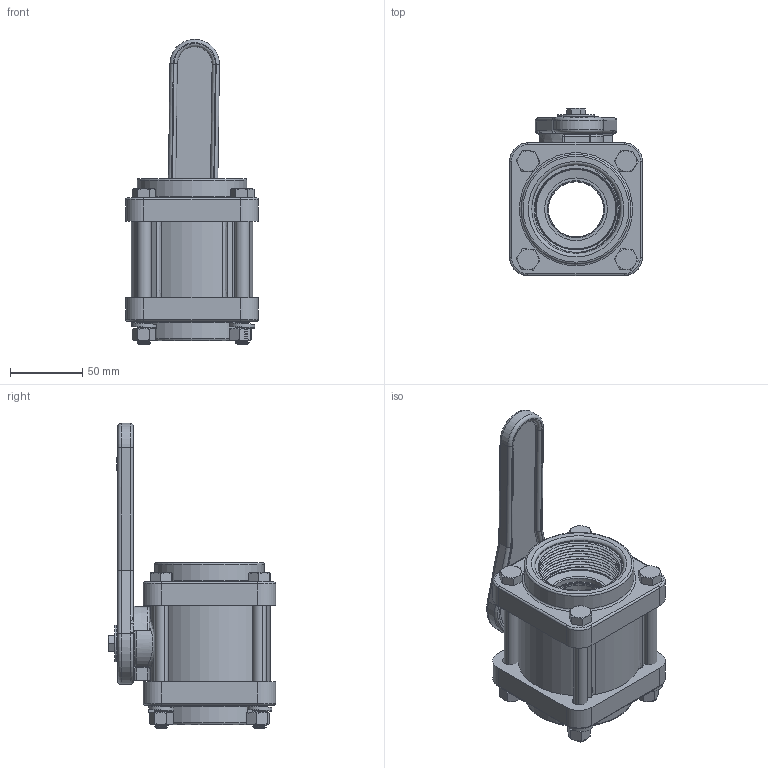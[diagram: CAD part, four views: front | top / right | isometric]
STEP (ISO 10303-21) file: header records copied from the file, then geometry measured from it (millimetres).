
FILE_DESCRIPTION(/* description */ ('Alibre Inc.'),/* implementation_level */ '2;1');
FILE_NAME(/* name */ 'export0',/* time_stamp */ '2023-03-28T15:02:59-04:00',/* author */ (''),/* organization */ (''),/* preprocessor_version */ 'ST-DEVELOPER v17',/* originating_system */ 'Alibre',/* authorisation */ '');
FILE_SCHEMA (('CONFIG_CONTROL_DESIGN'));
Length unit declared in the file: inch
Products named in the file (14): ID_1; ID_2; ID_3; ID_4; ID_5; ID_6; ID_7; ID_8; ID_9; ID_10; ID_11; ID_12
Bounding box: 91.95 x 116 x 211.49 mm (x, y, z)
Volume: 562220 mm3; surface area: 181390.4 mm2
Topology: 25 solids, 25 shells, 993 faces, 2573 edges, 1664 vertices
Faces by surface type: cylinder 351, plane 272, cone 180, bspline 138, torus 47, sphere 5
Full cylindrical faces by diameter (mm): 4.826 x2, 4.978 x1, 7.112 x1, 9.652 x8, 19.05 x3, 21.59 x2, 22.352 x1, 24.892 x1, 25.4 x3, 31.496 x2, 32.258 x1, 38.1 x2, 38.354 x1, 39.624 x2, 61.468 x2, 63.5 x2, 65.278 x1, 71.12 x2, 71.628 x2, 75.946 x2
Entity records: 57321 total; most frequent: CARTESIAN_POINT 42771, ORIENTED_EDGE 3040, DIRECTION 1966, EDGE_CURVE 1520, VERTEX_POINT 1008, AXIS2_PLACEMENT_3D 824, FACE_BOUND 706, EDGE_LOOP 705
